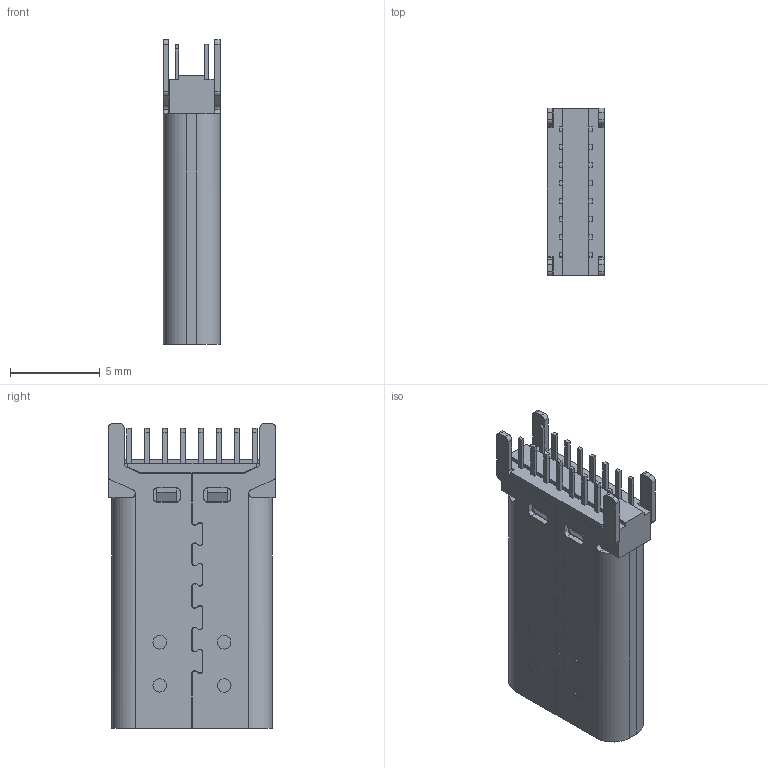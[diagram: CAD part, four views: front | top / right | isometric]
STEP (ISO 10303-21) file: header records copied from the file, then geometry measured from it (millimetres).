
FILE_DESCRIPTION (( 'STEP AP214' ), '1' );
FILE_NAME ('U5425-16PNT2.0J15.0L.STEP', '2026-06-02T07:45:29', ( '' ), ( '' ), 'SwSTEP 2.0', 'SolidWorks 2024', '' );
FILE_SCHEMA (( 'AUTOMOTIVE_DESIGN' ));
Length unit declared in the file: millimetre
Products named in the file (1): U5425-16PNT2.0J15.0L
Bounding box: 3.19 x 9.35 x 16.99 mm (x, y, z)
Volume: 324.2 mm3; surface area: 951.1 mm2
Topology: 8 solids, 13 shells, 706 faces, 1961 edges, 1284 vertices
Faces by surface type: plane 496, cylinder 181, bspline 25, cone 4
Entity records: 23938 total; most frequent: CARTESIAN_POINT 5641, ORIENTED_EDGE 3922, DIRECTION 3605, EDGE_CURVE 1961, LINE 1513, VECTOR 1513, VERTEX_POINT 1284, AXIS2_PLACEMENT_3D 1046
